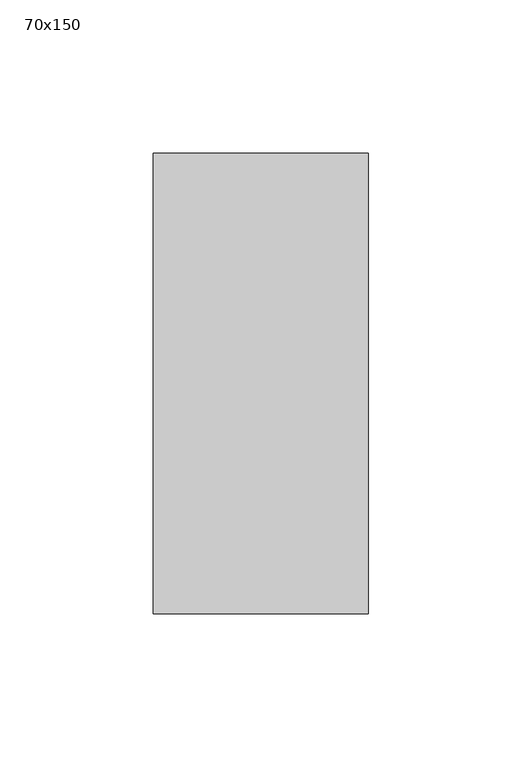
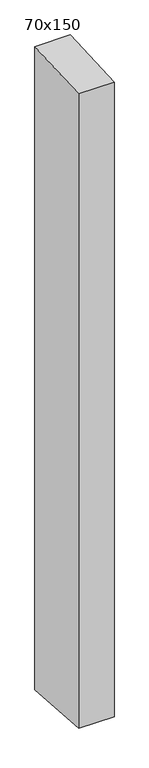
"""IFC4 building model written with IfcOpenShell, lengths in millimetres: member geometry, 長方形のマリオン : 70x150."""

from ifc_helpers import new_model, si_unit, frame, origin, place, context, project, spatial, polyline, outline, extrude, source, transform, mapped, element, save


def member_70x150_49631fa4(model_context):
    return source(origin(), model_context, "Body", "SweptSolid", [
        extrude(outline(polyline([(-75.0, -4.0221102), (75.0, 4.0221102), (75.0, -1340.9131056), (-75.0, -1330.8590309), (-75.0, -4.0221102)])), frame((-35.0, 0.0, 0.0), z_axis=(1.0, 0.0, 0.0), x_axis=(0.0, 1.0, 0.0)), (0.0, 0.0, 1.0), 70.0),
    ])


if __name__ == "__main__":
    model = new_model("IFC4")
    model_context = context("Model", 3, world=origin())
    ifc_project = project(units=[si_unit("LENGTHUNIT", "METRE", prefix="MILLI")], contexts=[model_context])
    site = spatial("IfcSite", under=ifc_project)
    building = spatial("IfcBuilding", under=site)
    placement = place(None, origin())
    member_70x150_shape = member_70x150_49631fa4(model_context)
    element("IfcMember", 1, ObjectType="長方形のマリオン : 70x150", at=placement, inside=building, context=model_context, shape_type="MappedRepresentation", body=[
        mapped(member_70x150_shape, transform((0.0, 0.0, 0.0), x_axis=(1.0, 0.0, 0.0), y_axis=(0.0, 1.0, 0.0), z_axis=(0.0, 0.0, 1.0))),
    ])
    save(model, "model.ifc")
